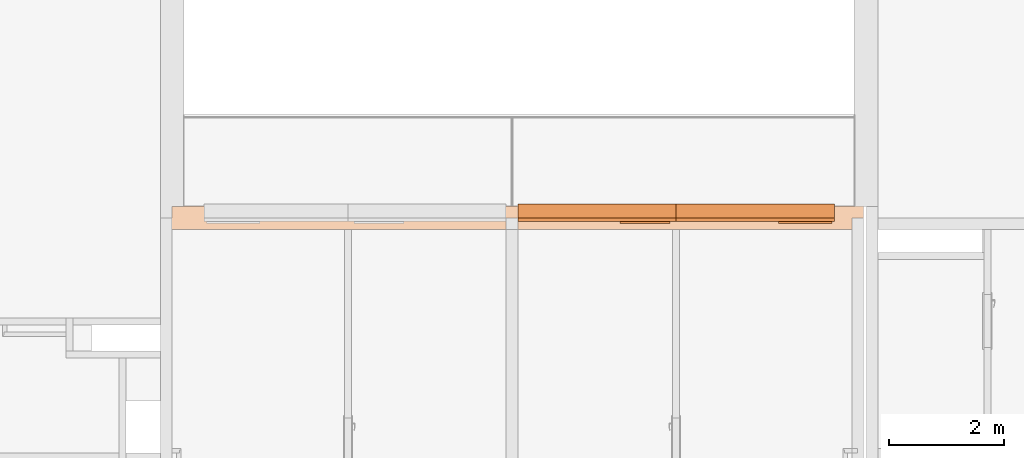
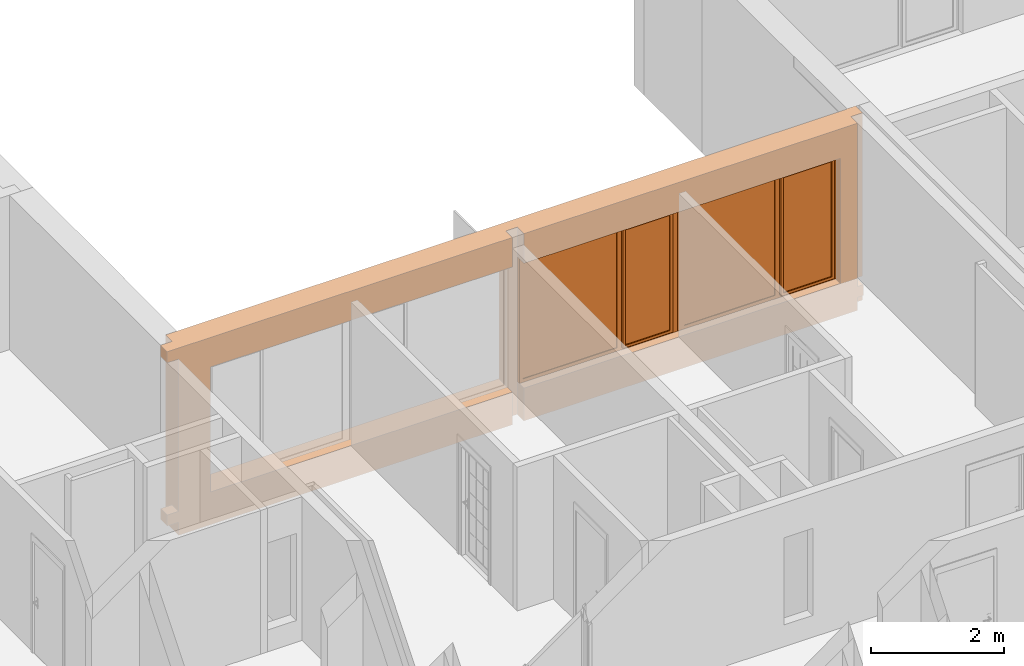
# One storey, part 49 of 67: 2 proxies, 4 openings, plus 1 element that does not belong to this part.
"""IFC2X3 building model written with IfcOpenShell, lengths in millimetres."""

from ifc_helpers import new_model, entity, si_unit, converted_unit, derived_unit, money_unit, direction, frame, origin_with_axes, origin_2d_with_axis, place, context, subcontext, project, spatial, rectangle, extrude, open_shell, faceted_brep, surface_model, source, transform, mapped, material, material_list, type_object, element, fill, save


model = new_model("IFC2X3")

# Units and contexts
model_context = context("Model", 3, precision=0.01, world=origin_with_axes(), true_north=direction((0.34421633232, 0.938890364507)))
body_context = subcontext(model_context, "Body", "Model", "MODEL_VIEW")
ifc_project = project(units=[si_unit("LENGTHUNIT", "METRE", prefix="MILLI"), si_unit("AREAUNIT", "SQUARE_METRE"), si_unit("VOLUMEUNIT", "CUBIC_METRE"), converted_unit("PLANEANGLEUNIT", "DEGREE", entity("IfcPlaneAngleMeasure", 0.0174532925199), si_unit("PLANEANGLEUNIT", "RADIAN"), dimensions=[0, 0, 0, 0, 0, 0, 0]), si_unit("SOLIDANGLEUNIT", "STERADIAN"), money_unit("USD"), converted_unit("TIMEUNIT", "Year", entity("IfcTimeMeasure", 31556926.0), si_unit("TIMEUNIT", "SECOND"), dimensions=[0, 0, 1, 0, 0, 0, 0]), si_unit("MASSUNIT", "GRAM", prefix="KILO"), si_unit("THERMODYNAMICTEMPERATUREUNIT", "DEGREE_CELSIUS"), si_unit("LUMINOUSINTENSITYUNIT", "LUMEN"), si_unit("ENERGYUNIT", "JOULE", prefix="MEGA"), derived_unit("THERMALCONDUCTANCEUNIT", [(si_unit("POWERUNIT", "WATT"), 1), (si_unit("LENGTHUNIT", "METRE"), -1), (si_unit("THERMODYNAMICTEMPERATUREUNIT", "KELVIN"), -1)]), derived_unit("SPECIFICHEATCAPACITYUNIT", [(si_unit("ENERGYUNIT", "JOULE"), 1), (si_unit("MASSUNIT", "GRAM", prefix="KILO"), -1), (si_unit("THERMODYNAMICTEMPERATUREUNIT", "KELVIN"), -1)]), derived_unit("MASSDENSITYUNIT", [(si_unit("MASSUNIT", "GRAM", prefix="KILO"), 1), (si_unit("VOLUMEUNIT", "CUBIC_METRE"), -1)])], contexts=[model_context])

# Site, building, storey
site_placement = place(None, origin_with_axes())
site = spatial("IfcSite", under=ifc_project, at=site_placement, Name="USTRONIE MORSKIE", CompositionType="ELEMENT")
building_placement = place(site_placement, origin_with_axes())
building = spatial("IfcBuilding", under=site, at=building_placement, Name="Budynek", CompositionType="ELEMENT")
storey_placement = place(building_placement, frame((0.0, 0.0, 4000.0), z_axis=(0.0, 0.0, 1.0), x_axis=(1.0, 0.0, 0.0)))
storey = spatial("IfcBuildingStorey", under=building, at=storey_placement, Name="PIĘTRO 1", CompositionType="ELEMENT", Elevation=4000.0)

# Proxies, openings
ifc_material_1 = material(Name="Beton konstrukcyjny B25")
ifc_material_2 = material(Name="Wełna ELEW")
ifc_material_3 = material(Name="Tynk zewnętrzny")
ifc_material_list = material_list([ifc_material_1, ifc_material_2, ifc_material_3])
building_element_proxy_type_1 = type_object("IfcBuildingElementProxyType", Name="20+20 410", PredefinedType="NOTDEFINED")
proxy_1_placement = place(storey_placement, frame((408317.920919, 744701.199322, -600.0), z_axis=(0.0, 0.0, 1.0), x_axis=(-1.0, -2.51059854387e-08, 0.0)))
proxy_1 = element("IfcBuildingElementProxy", 1, at=proxy_1_placement, inside=storey, type_object=building_element_proxy_type_1, material=ifc_material_list, Name="SZ-01", context=body_context, shape_type="Brep", body=[
    faceted_brep([(12100.0000025, 99.9719298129, 3440.0), (6100.00000251, 99.9855996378, 3440.0), (6099.99999749, -100.000153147, 3440.0), (12099.9999975, -100.000303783, 3440.0), (6100.00000251, 99.9855996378, 3240.0), (12100.0001248, 99.9719298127, 3240.0), (11900.0001248, 99.9723854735, 3240.0), (6100.00000251, 99.9998468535, 3240.0), (6100.00000251, 99.9998468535, 440.0), (6100.00000251, 99.9855996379, 440.0), (6100.00000251, 99.9855996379, 240.0), (6100.00000251, 99.9998468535, 240.0), (6100.00000251, 99.9998468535, 0.0), (6099.99999749, -100.000153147, 0.0), (11899.9999975, -100.000298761, 0.0), (11899.9999975, -100.000298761, 240.0), (12099.9999975, -100.000303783, 240.0), (12099.9998752, -100.000303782, 440.0), (11899.9998752, -100.000298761, 440.0), (11899.9998752, -100.000298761, 3240.0), (12099.9998752, -100.000303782, 3240.0), (11900.0001248, 99.9997012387, 3240.0), (11900.0001248, 99.9997012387, 440.0), (11900.0001248, 99.9723854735, 440.0), (11900.0000025, 99.9723854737, 240.0), (12100.0001248, 99.9719298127, 440.0), (12100.0000025, 99.9719298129, 240.0), (11900.0000025, 99.9997012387, 240.0), (11900.0000025, 99.9997012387, 0.0)], [[[0, 1, 2, 3]], [[4, 1, 0, 5, 6]], [[4, 7, 8, 9, 10, 11, 12, 13, 2, 1]], [[13, 14, 15, 16, 17, 18, 19, 20, 3, 2]], [[5, 0, 3, 20]], [[6, 5, 20, 19]], [[7, 4, 6, 21]], [[7, 21, 22, 8]], [[23, 9, 8, 22]], [[24, 10, 9, 23, 25, 26]], [[27, 11, 10, 24]], [[12, 11, 27, 28]], [[28, 14, 13, 12]], [[28, 27, 24, 15, 14]], [[15, 24, 26, 16]], [[16, 26, 25, 17]], [[17, 25, 23, 18]], [[21, 6, 19, 18, 23, 22]]]),
    faceted_brep([(99.9999974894, -100.000002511, 0.0), (5899.99999749, -100.000148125, 0.0), (5899.99999749, -100.000148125, 3440.0), (99.9999974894, -100.000002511, 3440.0), (99.9999974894, -100.000002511, 440.0), (5.27222709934e-06, -100.0, 440.0), (5.27222709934e-06, -100.0, 240.0), (99.9999974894, -100.000002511, 240.0), (5900.00000251, 99.9998518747, 0.0), (100.000002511, 99.9999974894, 0.0), (5900.00000251, 99.9998518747, 3440.0), (100.000002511, 99.9999974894, 3440.0), (100.000002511, 99.9999974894, 440.0), (1.0293433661e-05, 100.0, 440.0), (1.0293433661e-05, 100.0, 240.0), (100.000002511, 99.9999974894, 240.0)], [[[0, 1, 2, 3, 4, 5, 6, 7]], [[8, 1, 0, 9]], [[1, 8, 10, 2]], [[11, 3, 2, 10]], [[11, 12, 4, 3]], [[4, 12, 13, 5]], [[14, 6, 5, 13]], [[14, 15, 7, 6]], [[15, 9, 0, 7]], [[12, 11, 10, 8, 9, 15, 14, 13]]]),
    faceted_brep([(11899.9999925, -300.000298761, 3440.0), (-100.000007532, -299.999997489, 3440.0), (-100.000007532, -299.999997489, 440.0), (2.51020537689e-07, -300.0, 440.0), (2.51020537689e-07, -300.0, 240.0), (-100.000007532, -299.999997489, 240.0), (-100.000007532, -299.999997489, 0.0), (11899.9999925, -300.000298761, 0.0), (-100.000002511, -99.9999974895, 3440.0), (11899.9999975, -100.000298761, 3440.0), (-100.000002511, -99.9999974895, 440.0), (5.27222709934e-06, -100.0, 440.0), (5.27222709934e-06, -100.0, 240.0), (-100.000002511, -99.9999974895, 240.0), (-100.000002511, -99.9999974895, 0.0), (11899.9999975, -100.000298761, 0.0)], [[[0, 1, 2, 3, 4, 5, 6, 7]], [[8, 1, 0, 9]], [[2, 1, 8, 10]], [[10, 11, 3, 2]], [[3, 11, 12, 4]], [[5, 4, 12, 13]], [[13, 14, 6, 5]], [[6, 14, 15, 7]], [[0, 7, 15, 9]], [[10, 8, 9, 15, 14, 13, 12, 11]]]),
    faceted_brep([(11699.9997134, -310.00029374, 3240.0), (49.9999922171, -310.000001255, 3240.0), (49.9999922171, -310.000001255, 3440.0), (-100.000007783, -309.999997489, 3440.0), (-100.000007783, -309.999997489, 440.0), (0.0, -310.0, 440.0), (0.0, -310.0, 240.0), (-100.000007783, -309.999997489, 240.0), (-100.000007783, -309.999997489, 0.0), (11699.9999922, -310.00029374, 0.0), (11699.9999922, -310.00029374, 130.0), (49.9999922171, -310.000001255, 130.0), (49.9999922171, -310.000001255, 330.0), (49.9999922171, -310.000001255, 335.0), (49.9999922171, -310.000001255, 485.0), (49.9999922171, -310.000001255, 545.0), (49.9999922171, -310.000001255, 570.0), (11699.9999922, -310.00029374, 570.0), (11699.9997137, -300.013449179, 3240.0), (49.9999924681, -299.999863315, 3240.0), (49.9999924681, -299.999863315, 3440.0), (-100.000007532, -299.999997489, 3440.0), (-100.000007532, -299.999997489, 440.0), (2.51020537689e-07, -300.0, 440.0), (2.51020537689e-07, -300.0, 240.0), (-100.000007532, -299.999997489, 240.0), (-100.000007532, -299.999997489, 0.0), (11699.9999925, -300.00029374, 0.0), (11699.9999925, -300.000190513, 130.0), (49.9999924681, -300.000001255, 130.0), (49.9999924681, -300.000001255, 330.0), (49.9999924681, -300.000001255, 335.0), (49.9999924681, -300.000001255, 485.0), (49.9999924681, -300.000001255, 545.0), (49.9999924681, -300.000001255, 570.0), (11699.9999925, -300.000190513, 570.0)], [[[0, 1, 2, 3, 4, 5, 6, 7, 8, 9, 10, 11, 12, 13, 14, 15, 16, 17]], [[1, 0, 18, 19]], [[20, 2, 1, 19]], [[2, 20, 21, 3]], [[21, 22, 4, 3]], [[23, 5, 4, 22]], [[24, 6, 5, 23]], [[24, 25, 7, 6]], [[8, 7, 25, 26]], [[27, 9, 8, 26]], [[27, 28, 10, 9]], [[29, 11, 10, 28]], [[30, 12, 11, 29]], [[13, 12, 30, 31]], [[13, 31, 32, 14]], [[32, 33, 15, 14]], [[34, 16, 15, 33]], [[35, 17, 16, 34]], [[18, 0, 17, 35]], [[34, 19, 18]], [[19, 21, 20]], [[21, 23, 22]], [[19, 24, 23]], [[24, 26, 25]], [[26, 29, 27]], [[27, 29, 28]], [[26, 30, 29]], [[26, 31, 30]], [[24, 32, 31]], [[32, 24, 33]], [[33, 24, 34]], [[34, 18, 35]], [[34, 24, 19]], [[19, 23, 21]], [[24, 31, 26]]]),
])
opening_1_placement = place(proxy_1_placement, frame((10100.0109253, 0.0, 600.0), z_axis=(0.0, 0.0, 1.0), x_axis=(1.0, 0.0, 0.0)))
element("IfcOpeningElement", 2, at=opening_1_placement, cuts=proxy_1, Name="Wz.05", context=body_context, shape_type="SweptSolid", body=[
    extrude(rectangle(XDim=2499.99239939, YDim=2300.0, at=origin_2d_with_axis()), frame((5.27228394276e-06, -100.000253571, 1150.0), z_axis=(2.51059854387e-08, 1.0, 0.0), x_axis=(1.0, -2.51059855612e-08, 0.0)), (0.0, 0.0, -1.0), 620.0),
    extrude(rectangle(XDim=2499.99239939, YDim=2300.0, at=origin_2d_with_axis()), frame((5.27228394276e-06, -100.000253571, 1150.0), z_axis=(-2.51059854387e-08, -1.0, 0.0), x_axis=(1.0, -2.51059855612e-08, 0.0)), (0.0, 0.0, -1.0), 610.0),
])
opening_2_placement = place(proxy_1_placement, frame((7475.01115408, 0.0, 600.0), z_axis=(0.0, 0.0, 1.0), x_axis=(1.0, 0.0, 0.0)))
element("IfcOpeningElement", 3, at=opening_2_placement, cuts=proxy_1, Name="Wz.05", context=body_context, shape_type="SweptSolid", body=[
    extrude(rectangle(XDim=2750.00714313, YDim=2300.0, at=origin_2d_with_axis()), frame((5.27222709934e-06, -100.000187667, 1150.0), z_axis=(2.51059854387e-08, 1.0, 0.0), x_axis=(1.0, -2.51059855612e-08, 0.0)), (0.0, 0.0, -1.0), 620.0),
    extrude(rectangle(XDim=2750.00714313, YDim=2300.0, at=origin_2d_with_axis()), frame((5.27222709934e-06, -100.000187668, 1150.0), z_axis=(-2.51059854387e-08, -1.0, 0.0), x_axis=(1.0, -2.51059855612e-08, 0.0)), (0.0, 0.0, -1.0), 610.0),
])
opening_3_placement = place(proxy_1_placement, frame((1774.99280613, 0.0, 600.0), z_axis=(0.0, 0.0, 1.0), x_axis=(1.0, 0.0, 0.0)))
opening_3 = element("IfcOpeningElement", 4, at=opening_3_placement, cuts=proxy_1, Name="Wz.05", context=body_context, shape_type="SweptSolid", body=[
    extrude(rectangle(XDim=2750.0001065, YDim=2300.0, at=origin_2d_with_axis()), frame((5.27222709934e-06, -100.000044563, 1150.0), z_axis=(-2.51059854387e-08, -1.0, 0.0), x_axis=(-1.0, 2.51059855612e-08, 0.0)), (0.0, 0.0, 1.0), 620.0),
    extrude(rectangle(XDim=2750.0001065, YDim=2300.0, at=origin_2d_with_axis()), frame((5.27222709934e-06, -100.000044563, 1150.0), z_axis=(2.51059854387e-08, 1.0, 0.0), x_axis=(-1.0, 2.51059855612e-08, 0.0)), (0.0, 0.0, 1.0), 610.0),
])
opening_4_placement = place(proxy_1_placement, frame((4524.99643095, 0.0, 600.0), z_axis=(0.0, 0.0, 1.0), x_axis=(1.0, 0.0, 0.0)))
opening_4 = element("IfcOpeningElement", 5, at=opening_4_placement, cuts=proxy_1, Name="Wz.05", context=body_context, shape_type="SweptSolid", body=[
    extrude(rectangle(XDim=2750.00714313, YDim=2300.0, at=origin_2d_with_axis()), frame((5.27222709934e-06, -100.000113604, 1150.0), z_axis=(-2.51059854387e-08, -1.0, 0.0), x_axis=(-1.0, 2.51059855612e-08, 0.0)), (0.0, 0.0, 1.0), 620.0),
    extrude(rectangle(XDim=2750.00714313, YDim=2300.0, at=origin_2d_with_axis()), frame((5.27222709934e-06, -100.000113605, 1150.0), z_axis=(2.51059854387e-08, 1.0, 0.0), x_axis=(-1.0, 2.51059855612e-08, 0.0)), (0.0, 0.0, 1.0), 610.0),
])
building_element_proxy_type_2 = type_object("IfcBuildingElementProxyType", Name="Okno podwójne 23", PredefinedType="NOTDEFINED")
shared_shape_1 = source(origin_with_axes(), body_context, "Body", "SurfaceModel", [
    surface_model("IfcShellBasedSurfaceModel", [(1375.00357156, -61.0, 50.0), (-1375.00357156, -61.0, 50.0), (-1375.00357156, -61.0, 40.0), (1375.00357156, -61.0, 40.0), (-1375.00357156, -300.0, 28.5714285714), (1375.00357156, -300.0, 28.5714285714), (-1375.00357156, -300.0, 8.57142857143), (1375.00357156, -300.0, 8.57142857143), (-1375.00357156, -290.0, 18.5714285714), (1375.00357156, -290.0, 18.5714285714)], [open_shell([[[0, 1, 2, 3]], [[3, 2, 4, 5]], [[5, 4, 6, 7]], [[7, 6, 8, 9]]])]),
    faceted_brep([(-1250.00357156, -20.0, 2235.0), (-1270.00357156, -20.0, 2235.0), (-1270.00357156, 0.0, 2235.0), (-1375.00357156, 0.0, 2235.0), (-1375.00357156, -60.0, 2235.0), (-1250.00357156, -60.0, 2235.0), (-1250.00357156, -20.0, 65.0), (-1270.00357156, -20.0, 65.0), (-1270.00357156, 0.0, 65.0), (-1375.00357156, 0.0, 65.0), (-1375.00357156, -60.0, 65.0), (-1250.00357156, -60.0, 65.0)], [[[0, 1, 2, 3, 4, 5]], [[1, 0, 6, 7]], [[8, 2, 1, 7]], [[2, 8, 9, 3]], [[9, 10, 4, 3]], [[10, 11, 5, 4]], [[6, 0, 5, 11]], [[7, 6, 11, 10, 9, 8]]]),
    faceted_brep([(-400.003571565, 0.0, 2235.0), (-400.003571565, -20.0, 2235.0), (-420.003571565, -20.0, 2235.0), (-420.003571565, -60.0, 2235.0), (-320.003571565, -60.0, 2235.0), (-320.003571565, 0.0, 2235.0), (-400.003571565, 0.0, 65.0), (-400.003571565, -20.0, 65.0), (-420.003571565, -20.0, 65.0), (-420.003571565, -60.0, 65.0), (-320.003571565, -60.0, 65.0), (-320.003571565, 0.0, 65.0)], [[[0, 1, 2, 3, 4, 5]], [[1, 0, 6, 7]], [[8, 2, 1, 7]], [[2, 8, 9, 3]], [[9, 10, 4, 3]], [[5, 4, 10, 11]], [[6, 0, 5, 11]], [[7, 6, 11, 10, 9, 8]]]),
    faceted_brep([(-1250.00357156, -20.0, 65.0), (-1270.00357156, -20.0, 65.0), (-1270.00357156, 0.0, 65.0), (-1375.00357156, 0.0, 65.0), (-1375.00357156, -60.0, 65.0), (-1250.00357156, -60.0, 65.0), (-420.003571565, -20.0, 65.0), (-400.003571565, -20.0, 65.0), (-400.003571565, -20.0, 45.0), (-1270.00357156, -20.0, 45.0), (-1270.00357156, 0.0, 45.0), (-400.003571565, 0.0, 45.0), (-400.003571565, 0.0, 65.0), (-320.003571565, 0.0, 65.0), (1310.00357156, 0.0, 65.0), (1375.00357156, 0.0, 65.0), (1375.00357156, 0.0, 0.0), (-1375.00357156, 0.0, 0.0), (-1375.00357156, -60.0, 0.0), (1375.00357156, -60.0, 65.0), (1310.00357156, -60.0, 65.0), (-320.003571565, -60.0, 65.0), (-420.003571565, -60.0, 65.0), (1375.00357156, -60.0, 0.0)], [[[0, 1, 2, 3, 4, 5]], [[1, 0, 6, 7, 8, 9]], [[10, 2, 1, 9]], [[11, 12, 13, 14, 15, 16, 17, 3, 2, 10]], [[17, 18, 4, 3]], [[19, 20, 21, 22, 5, 4, 18, 23]], [[6, 0, 5, 22]], [[7, 6, 22, 21, 13, 12]], [[7, 12, 11, 8]], [[11, 10, 9, 8]], [[13, 21, 20, 14]], [[14, 20, 19, 15]], [[15, 19, 23, 16]], [[16, 23, 18, 17]]]),
    faceted_brep([(-400.003571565, 0.0, 2235.0), (-400.003571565, 0.0, 2255.0), (-1270.00357156, 0.0, 2255.0), (-1270.00357156, 0.0, 2235.0), (-1375.00357156, 0.0, 2235.0), (-1375.00357156, 0.0, 2300.0), (1375.00357156, 0.0, 2300.0), (1375.00357156, 0.0, 2235.0), (1310.00357156, 0.0, 2235.0), (-320.003571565, 0.0, 2235.0), (-400.003571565, -20.0, 2235.0), (-400.003571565, -20.0, 2255.0), (-1270.00357156, -20.0, 2255.0), (-1270.00357156, -20.0, 2235.0), (-1250.00357156, -20.0, 2235.0), (-1250.00357156, -60.0, 2235.0), (-1375.00357156, -60.0, 2235.0), (-1375.00357156, -60.0, 2300.0), (1375.00357156, -60.0, 2300.0), (1375.00357156, -60.0, 2235.0), (1310.00357156, -60.0, 2235.0), (-320.003571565, -60.0, 2235.0), (-420.003571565, -60.0, 2235.0), (-420.003571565, -20.0, 2235.0)], [[[0, 1, 2, 3, 4, 5, 6, 7, 8, 9]], [[1, 0, 10, 11]], [[2, 1, 11, 12]], [[3, 2, 12, 13]], [[13, 14, 15, 16, 4, 3]], [[4, 16, 17, 5]], [[5, 17, 18, 6]], [[6, 18, 19, 7]], [[7, 19, 20, 8]], [[8, 20, 21, 9]], [[10, 0, 9, 21, 22, 23]], [[14, 13, 12, 11, 10, 23]], [[14, 23, 22, 15]], [[22, 21, 20, 19, 18, 17, 16, 15]]]),
    faceted_brep([(1310.00357156, -60.0, 2235.0), (1375.00357156, -60.0, 2235.0), (1375.00357156, 0.0, 2235.0), (1310.00357156, 0.0, 2235.0), (1310.00357156, -60.0, 65.0), (1375.00357156, -60.0, 65.0), (1375.00357156, 0.0, 65.0), (1310.00357156, 0.0, 65.0)], [[[0, 1, 2, 3]], [[0, 4, 5, 1]], [[1, 5, 6, 2]], [[3, 2, 6, 7]], [[4, 0, 3, 7]], [[5, 4, 7, 6]]]),
    surface_model("IfcShellBasedSurfaceModel", [(1310.00357156, -30.0, 65.0), (1310.00357156, -30.0, 2235.0), (-320.003571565, -30.0, 2235.0), (-320.003571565, -30.0, 65.0)], [open_shell([[[0, 1, 2, 3]]])]),
    surface_model("IfcShellBasedSurfaceModel", [(1310.00357156, -10.0, 65.0), (-320.003571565, -10.0, 65.0), (-320.003571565, -10.0, 2235.0), (1310.00357156, -10.0, 2235.0)], [open_shell([[[0, 1, 2, 3]]])]),
    faceted_brep([(-445.003571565, -20.0, 2210.0), (-400.003571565, -20.0, 2210.0), (-400.003571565, 40.0, 2210.0), (-445.003571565, 40.0, 2210.0), (-445.003571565, -20.0, 90.0), (-400.003571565, -20.0, 90.0), (-400.003571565, 40.0, 90.0), (-445.003571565, 40.0, 90.0)], [[[0, 1, 2, 3]], [[0, 4, 5, 1]], [[1, 5, 6, 2]], [[3, 2, 6, 7]], [[4, 0, 3, 7]], [[5, 4, 7, 6]]]),
    faceted_brep([(-1225.00357156, -20.0, 90.0), (-1270.00357156, -20.0, 90.0), (-1270.00357156, 40.0, 90.0), (-1225.00357156, 40.0, 90.0), (-1225.00357156, -20.0, 2210.0), (-1270.00357156, -20.0, 2210.0), (-1270.00357156, 40.0, 2210.0), (-1225.00357156, 40.0, 2210.0)], [[[0, 1, 2, 3]], [[0, 4, 5, 1]], [[1, 5, 6, 2]], [[3, 2, 6, 7]], [[4, 0, 3, 7]], [[5, 4, 7, 6]]]),
    faceted_brep([(-1270.00357156, -20.0, 45.0), (-1270.00357156, -20.0, 90.0), (-1270.00357156, 40.0, 90.0), (-1270.00357156, 40.0, 45.0), (-400.003571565, -20.0, 45.0), (-400.003571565, -20.0, 90.0), (-445.003571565, -20.0, 90.0), (-1225.00357156, -20.0, 90.0), (-1225.00357156, 40.0, 90.0), (-445.003571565, 40.0, 90.0), (-400.003571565, 40.0, 90.0), (-400.003571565, 40.0, 45.0)], [[[0, 1, 2, 3]], [[0, 4, 5, 6, 7, 1]], [[1, 7, 8, 2]], [[3, 2, 8, 9, 10, 11]], [[4, 0, 3, 11]], [[5, 4, 11, 10]], [[6, 5, 10, 9]], [[7, 6, 9, 8]]]),
    faceted_brep([(-400.003571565, -20.0, 2255.0), (-400.003571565, -20.0, 2210.0), (-400.003571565, 40.0, 2210.0), (-400.003571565, 40.0, 2255.0), (-1270.00357156, -20.0, 2255.0), (-1270.00357156, -20.0, 2210.0), (-1225.00357156, -20.0, 2210.0), (-445.003571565, -20.0, 2210.0), (-445.003571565, 40.0, 2210.0), (-1225.00357156, 40.0, 2210.0), (-1270.00357156, 40.0, 2210.0), (-1270.00357156, 40.0, 2255.0)], [[[0, 1, 2, 3]], [[0, 4, 5, 6, 7, 1]], [[1, 7, 8, 2]], [[3, 2, 8, 9, 10, 11]], [[4, 0, 3, 11]], [[5, 4, 11, 10]], [[6, 5, 10, 9]], [[7, 6, 9, 8]]]),
    surface_model("IfcShellBasedSurfaceModel", [(-445.003571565, 0.0, 90.0), (-445.003571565, 0.0, 2210.0), (-1225.00357156, 0.0, 2210.0), (-1225.00357156, 0.0, 90.0)], [open_shell([[[0, 1, 2, 3]]])]),
    surface_model("IfcShellBasedSurfaceModel", [(-445.003571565, 20.0, 90.0), (-1225.00357156, 20.0, 90.0), (-1225.00357156, 20.0, 2210.0), (-445.003571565, 20.0, 2210.0)], [open_shell([[[0, 1, 2, 3]]])]),
])
proxy_2_placement = place(opening_4_placement, frame((-1375.00357156, 2.27373675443e-10, 0.0), z_axis=(0.0, 0.0, 1.0), x_axis=(1.0, 0.0, 0.0)))
proxy_2 = element("IfcBuildingElementProxy", 6, at=proxy_2_placement, inside=storey, type_object=building_element_proxy_type_2, Name="Wz.05", context=body_context, shape_type="MappedRepresentation", body=[
    mapped(shared_shape_1, transform((1375.00357834, -40.0001136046, 0.0))),
])
fill(opening_4, proxy_2)
shared_shape_2 = source(origin_with_axes(), body_context, "Body", "SurfaceModel", [
    surface_model("IfcShellBasedSurfaceModel", [(1375.00005325, -61.0, 50.0), (-1375.00005325, -61.0, 50.0), (-1375.00005325, -61.0, 40.0), (1375.00005325, -61.0, 40.0), (-1375.00005325, -300.0, 28.5714285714), (1375.00005325, -300.0, 28.5714285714), (-1375.00005325, -300.0, 8.57142857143), (1375.00005325, -300.0, 8.57142857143), (-1375.00005325, -290.0, 18.5714285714), (1375.00005325, -290.0, 18.5714285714)], [open_shell([[[0, 1, 2, 3]], [[3, 2, 4, 5]], [[5, 4, 6, 7]], [[7, 6, 8, 9]]])]),
    faceted_brep([(-1310.00005325, -20.0, 2235.0), (-1330.00005325, -20.0, 2235.0), (-1330.00005325, 0.0, 2235.0), (-1375.00005325, 0.0, 2235.0), (-1375.00005325, -60.0, 2235.0), (-1310.00005325, -60.0, 2235.0), (-1310.00005325, -20.0, 65.0), (-1330.00005325, -20.0, 65.0), (-1330.00005325, 0.0, 65.0), (-1375.00005325, 0.0, 65.0), (-1375.00005325, -60.0, 65.0), (-1310.00005325, -60.0, 65.0)], [[[0, 1, 2, 3, 4, 5]], [[1, 0, 6, 7]], [[8, 2, 1, 7]], [[2, 8, 9, 3]], [[9, 10, 4, 3]], [[10, 11, 5, 4]], [[6, 0, 5, 11]], [[7, 6, 11, 10, 9, 8]]]),
    faceted_brep([(-400.000053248, 0.0, 2235.0), (-400.000053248, -20.0, 2235.0), (-420.000053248, -20.0, 2235.0), (-420.000053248, -60.0, 2235.0), (-320.000053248, -60.0, 2235.0), (-320.000053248, 0.0, 2235.0), (-400.000053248, 0.0, 65.0), (-400.000053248, -20.0, 65.0), (-420.000053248, -20.0, 65.0), (-420.000053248, -60.0, 65.0), (-320.000053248, -60.0, 65.0), (-320.000053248, 0.0, 65.0)], [[[0, 1, 2, 3, 4, 5]], [[1, 0, 6, 7]], [[8, 2, 1, 7]], [[2, 8, 9, 3]], [[9, 10, 4, 3]], [[5, 4, 10, 11]], [[6, 0, 5, 11]], [[7, 6, 11, 10, 9, 8]]]),
    faceted_brep([(-1310.00005325, -20.0, 65.0), (-1330.00005325, -20.0, 65.0), (-1330.00005325, 0.0, 65.0), (-1375.00005325, 0.0, 65.0), (-1375.00005325, -60.0, 65.0), (-1310.00005325, -60.0, 65.0), (-420.000053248, -20.0, 65.0), (-400.000053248, -20.0, 65.0), (-400.000053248, -20.0, 45.0), (-1330.00005325, -20.0, 45.0), (-1330.00005325, 0.0, 45.0), (-400.000053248, 0.0, 45.0), (-400.000053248, 0.0, 65.0), (-320.000053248, 0.0, 65.0), (1250.00005325, 0.0, 65.0), (1375.00005325, 0.0, 65.0), (1375.00005325, 0.0, 0.0), (-1375.00005325, 0.0, 0.0), (-1375.00005325, -60.0, 0.0), (1375.00005325, -60.0, 65.0), (1250.00005325, -60.0, 65.0), (-320.000053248, -60.0, 65.0), (-420.000053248, -60.0, 65.0), (1375.00005325, -60.0, 0.0)], [[[0, 1, 2, 3, 4, 5]], [[1, 0, 6, 7, 8, 9]], [[10, 2, 1, 9]], [[11, 12, 13, 14, 15, 16, 17, 3, 2, 10]], [[17, 18, 4, 3]], [[19, 20, 21, 22, 5, 4, 18, 23]], [[6, 0, 5, 22]], [[7, 6, 22, 21, 13, 12]], [[7, 12, 11, 8]], [[11, 10, 9, 8]], [[13, 21, 20, 14]], [[14, 20, 19, 15]], [[15, 19, 23, 16]], [[16, 23, 18, 17]]]),
    faceted_brep([(-400.000053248, 0.0, 2235.0), (-400.000053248, 0.0, 2255.0), (-1330.00005325, 0.0, 2255.0), (-1330.00005325, 0.0, 2235.0), (-1375.00005325, 0.0, 2235.0), (-1375.00005325, 0.0, 2300.0), (1375.00005325, 0.0, 2300.0), (1375.00005325, 0.0, 2235.0), (1250.00005325, 0.0, 2235.0), (-320.000053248, 0.0, 2235.0), (-400.000053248, -20.0, 2235.0), (-400.000053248, -20.0, 2255.0), (-1330.00005325, -20.0, 2255.0), (-1330.00005325, -20.0, 2235.0), (-1310.00005325, -20.0, 2235.0), (-1310.00005325, -60.0, 2235.0), (-1375.00005325, -60.0, 2235.0), (-1375.00005325, -60.0, 2300.0), (1375.00005325, -60.0, 2300.0), (1375.00005325, -60.0, 2235.0), (1250.00005325, -60.0, 2235.0), (-320.000053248, -60.0, 2235.0), (-420.000053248, -60.0, 2235.0), (-420.000053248, -20.0, 2235.0)], [[[0, 1, 2, 3, 4, 5, 6, 7, 8, 9]], [[1, 0, 10, 11]], [[2, 1, 11, 12]], [[3, 2, 12, 13]], [[13, 14, 15, 16, 4, 3]], [[4, 16, 17, 5]], [[5, 17, 18, 6]], [[6, 18, 19, 7]], [[7, 19, 20, 8]], [[8, 20, 21, 9]], [[10, 0, 9, 21, 22, 23]], [[14, 13, 12, 11, 10, 23]], [[14, 23, 22, 15]], [[22, 21, 20, 19, 18, 17, 16, 15]]]),
    faceted_brep([(1250.00005325, -60.0, 2235.0), (1375.00005325, -60.0, 2235.0), (1375.00005325, 0.0, 2235.0), (1250.00005325, 0.0, 2235.0), (1250.00005325, -60.0, 65.0), (1375.00005325, -60.0, 65.0), (1375.00005325, 0.0, 65.0), (1250.00005325, 0.0, 65.0)], [[[0, 1, 2, 3]], [[0, 4, 5, 1]], [[1, 5, 6, 2]], [[3, 2, 6, 7]], [[4, 0, 3, 7]], [[5, 4, 7, 6]]]),
    surface_model("IfcShellBasedSurfaceModel", [(1250.00005325, -30.0, 65.0), (1250.00005325, -30.0, 2235.0), (-320.000053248, -30.0, 2235.0), (-320.000053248, -30.0, 65.0)], [open_shell([[[0, 1, 2, 3]]])]),
    surface_model("IfcShellBasedSurfaceModel", [(1250.00005325, -10.0, 65.0), (-320.000053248, -10.0, 65.0), (-320.000053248, -10.0, 2235.0), (1250.00005325, -10.0, 2235.0)], [open_shell([[[0, 1, 2, 3]]])]),
    faceted_brep([(-445.000053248, -20.0, 2210.0), (-400.000053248, -20.0, 2210.0), (-400.000053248, 40.0, 2210.0), (-445.000053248, 40.0, 2210.0), (-445.000053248, -20.0, 90.0), (-400.000053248, -20.0, 90.0), (-400.000053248, 40.0, 90.0), (-445.000053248, 40.0, 90.0)], [[[0, 1, 2, 3]], [[0, 4, 5, 1]], [[1, 5, 6, 2]], [[3, 2, 6, 7]], [[4, 0, 3, 7]], [[5, 4, 7, 6]]]),
    faceted_brep([(-1285.00005325, -20.0, 90.0), (-1330.00005325, -20.0, 90.0), (-1330.00005325, 40.0, 90.0), (-1285.00005325, 40.0, 90.0), (-1285.00005325, -20.0, 2210.0), (-1330.00005325, -20.0, 2210.0), (-1330.00005325, 40.0, 2210.0), (-1285.00005325, 40.0, 2210.0)], [[[0, 1, 2, 3]], [[0, 4, 5, 1]], [[1, 5, 6, 2]], [[3, 2, 6, 7]], [[4, 0, 3, 7]], [[5, 4, 7, 6]]]),
    faceted_brep([(-1330.00005325, -20.0, 45.0), (-1330.00005325, -20.0, 90.0), (-1330.00005325, 40.0, 90.0), (-1330.00005325, 40.0, 45.0), (-400.000053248, -20.0, 45.0), (-400.000053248, -20.0, 90.0), (-445.000053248, -20.0, 90.0), (-1285.00005325, -20.0, 90.0), (-1285.00005325, 40.0, 90.0), (-445.000053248, 40.0, 90.0), (-400.000053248, 40.0, 90.0), (-400.000053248, 40.0, 45.0)], [[[0, 1, 2, 3]], [[0, 4, 5, 6, 7, 1]], [[1, 7, 8, 2]], [[3, 2, 8, 9, 10, 11]], [[4, 0, 3, 11]], [[5, 4, 11, 10]], [[6, 5, 10, 9]], [[7, 6, 9, 8]]]),
    faceted_brep([(-400.000053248, -20.0, 2255.0), (-400.000053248, -20.0, 2210.0), (-400.000053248, 40.0, 2210.0), (-400.000053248, 40.0, 2255.0), (-1330.00005325, -20.0, 2255.0), (-1330.00005325, -20.0, 2210.0), (-1285.00005325, -20.0, 2210.0), (-445.000053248, -20.0, 2210.0), (-445.000053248, 40.0, 2210.0), (-1285.00005325, 40.0, 2210.0), (-1330.00005325, 40.0, 2210.0), (-1330.00005325, 40.0, 2255.0)], [[[0, 1, 2, 3]], [[0, 4, 5, 6, 7, 1]], [[1, 7, 8, 2]], [[3, 2, 8, 9, 10, 11]], [[4, 0, 3, 11]], [[5, 4, 11, 10]], [[6, 5, 10, 9]], [[7, 6, 9, 8]]]),
    surface_model("IfcShellBasedSurfaceModel", [(-445.000053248, 0.0, 90.0), (-445.000053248, 0.0, 2210.0), (-1285.00005325, 0.0, 2210.0), (-1285.00005325, 0.0, 90.0)], [open_shell([[[0, 1, 2, 3]]])]),
    surface_model("IfcShellBasedSurfaceModel", [(-445.000053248, 20.0, 90.0), (-1285.00005325, 20.0, 90.0), (-1285.00005325, 20.0, 2210.0), (-445.000053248, 20.0, 2210.0)], [open_shell([[[0, 1, 2, 3]]])]),
])
proxy_3_placement = place(opening_3_placement, frame((-1375.00005325, 0.0, 0.0), z_axis=(0.0, 0.0, 1.0), x_axis=(1.0, 0.0, 0.0)))
proxy_3 = element("IfcBuildingElementProxy", 7, at=proxy_3_placement, inside=storey, type_object=building_element_proxy_type_2, Name="Wz.05", context=body_context, shape_type="MappedRepresentation", body=[
    mapped(shared_shape_2, transform((1375.00006003, -40.0000445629, 0.0))),
])
fill(opening_3, proxy_3)

save(model, "model.ifc")
